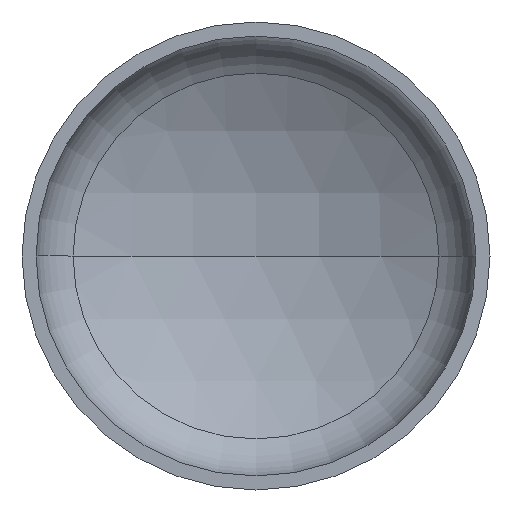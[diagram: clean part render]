
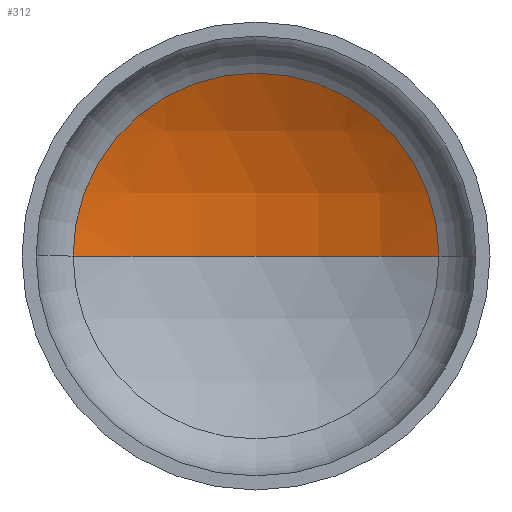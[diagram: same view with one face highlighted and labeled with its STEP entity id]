
A CAD part, front view. The second image highlights one B-rep face of the part: STEP entity #312.
In plain terms, the highlighted spherical face has radius 1760 mm.
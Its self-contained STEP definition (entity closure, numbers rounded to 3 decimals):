
#15 = EDGE_LOOP ( 'NONE', ( #265, #144, #93 ) ) ;
#21 = AXIS2_PLACEMENT_3D ( 'NONE', #251, #409, #198 ) ;
#30 = AXIS2_PLACEMENT_3D ( 'NONE', #176, #353, #355 ) ;
#33 = AXIS2_PLACEMENT_3D ( 'NONE', #183, #220, #48 ) ;
#35 = AXIS2_PLACEMENT_3D ( 'NONE', #394, #173, #134 ) ;
#37 = VERTEX_POINT ( 'NONE', #252 ) ;
#48 = DIRECTION ( 'NONE',  ( -1., 0., 0. ) ) ;
#93 = ORIENTED_EDGE ( 'NONE', *, *, #324, .T. ) ;
#100 = VERTEX_POINT ( 'NONE', #226 ) ;
#116 = VERTEX_POINT ( 'NONE', #238 ) ;
#134 = DIRECTION ( 'NONE',  ( 1., 0., 0. ) ) ;
#144 = ORIENTED_EDGE ( 'NONE', *, *, #345, .T. ) ;
#156 = FACE_OUTER_BOUND ( 'NONE', #15, .T. ) ;
#173 = DIRECTION ( 'NONE',  ( 0., -1., 0. ) ) ;
#176 = CARTESIAN_POINT ( 'NONE',  ( 0., -1118.856, 0. ) ) ;
#183 = CARTESIAN_POINT ( 'NONE',  ( 0., -1118.856, 0. ) ) ;
#198 = DIRECTION ( 'NONE',  ( 1., 0., 0. ) ) ;
#200 = CIRCLE ( 'NONE', #30, 1760. ) ;
#210 = CIRCLE ( 'NONE', #21, 1760. ) ;
#220 = DIRECTION ( 'NONE',  ( 0., 0., -1. ) ) ;
#226 = CARTESIAN_POINT ( 'NONE',  ( -860.169, 416.627, 0. ) ) ;
#238 = CARTESIAN_POINT ( 'NONE',  ( 0., 641.144, 0. ) ) ;
#251 = CARTESIAN_POINT ( 'NONE',  ( 0., -1118.856, 0. ) ) ;
#252 = CARTESIAN_POINT ( 'NONE',  ( 860.169, 416.627, 0. ) ) ;
#265 = ORIENTED_EDGE ( 'NONE', *, *, #347, .F. ) ;
#274 = SPHERICAL_SURFACE ( 'NONE', #33, 1760. ) ;
#312 = ADVANCED_FACE ( 'NONE', ( #156 ), #274, .F. ) ;
#324 = EDGE_CURVE ( 'NONE', #37, #100, #344, .T. ) ;
#344 = CIRCLE ( 'NONE', #35, 860.169 ) ;
#345 = EDGE_CURVE ( 'NONE', #116, #37, #200, .T. ) ;
#347 = EDGE_CURVE ( 'NONE', #116, #100, #210, .T. ) ;
#353 = DIRECTION ( 'NONE',  ( 0., 0., -1. ) ) ;
#355 = DIRECTION ( 'NONE',  ( -1., 0., 0. ) ) ;
#394 = CARTESIAN_POINT ( 'NONE',  ( 0., 416.627, 0. ) ) ;
#409 = DIRECTION ( 'NONE',  ( 0., 0., 1. ) ) ;
